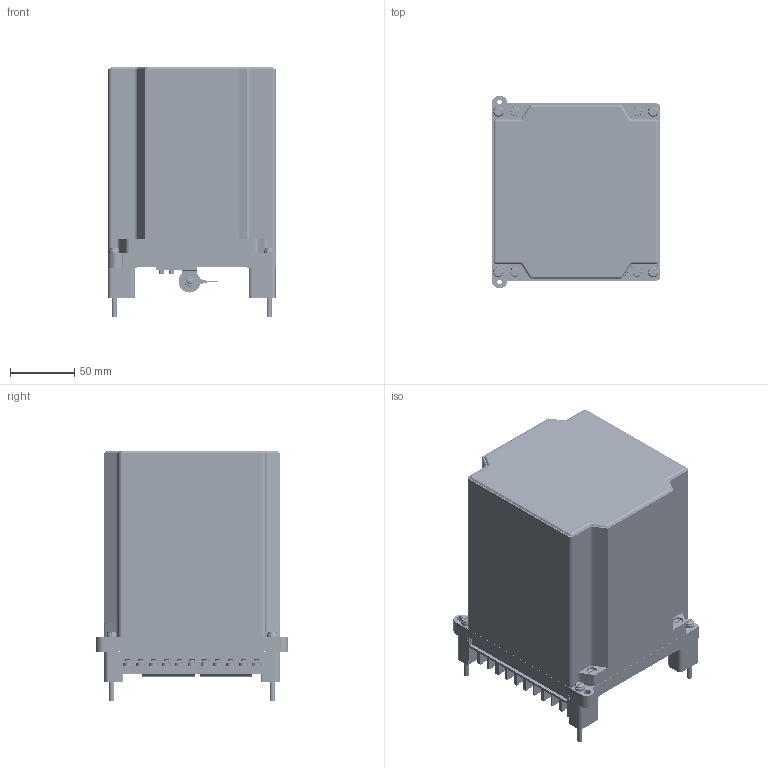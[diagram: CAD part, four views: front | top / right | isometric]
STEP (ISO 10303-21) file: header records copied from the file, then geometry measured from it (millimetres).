
FILE_DESCRIPTION(('STEP AP214'), '1');
FILE_NAME('ÐÒÔ-9 ç.ï.', '', ('UNSPECIFIED'), ('UNSPECIFIED'), 'ASCON STEP Converter 1.3', 'ASCON Math Kernel', '');
FILE_SCHEMA(('AUTOMOTIVE_DESIGN { 1 0 10303 214 3 1 1}'));
Length unit declared in the file: millimetre
Bounding box: 131 x 149.97 x 194.5 mm (x, y, z)
Volume: 476606.2 mm3; surface area: 327175.5 mm2
Topology: 1 solids, 1 shells, 13726 faces, 34137 edges, 20971 vertices
Faces by surface type: plane 10618, cylinder 2290, extrusion 628, torus 121, cone 55, sphere 14
Full cylindrical faces by diameter (mm): 2 x4, 3.3 x6, 3.5 x2, 4 x49, 4.3 x12, 4.5 x35, 5.2 x15, 5.3 x5, 5.8 x2, 5.9 x2, 7.5 x2, 8 x12, 8.5 x2, 10 x4, 17 x2
Entity records: 513041 total; most frequent: CARTESIAN_POINT 79353, ORIENTED_EDGE 67674, DIRECTION 64001, EDGE_CURVE 33837, VECTOR 27813, LINE 27185, VERTEX_POINT 20960, AXIS2_PLACEMENT_3D 18094
